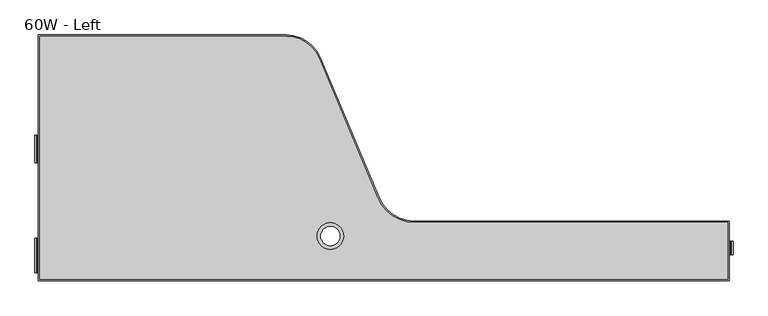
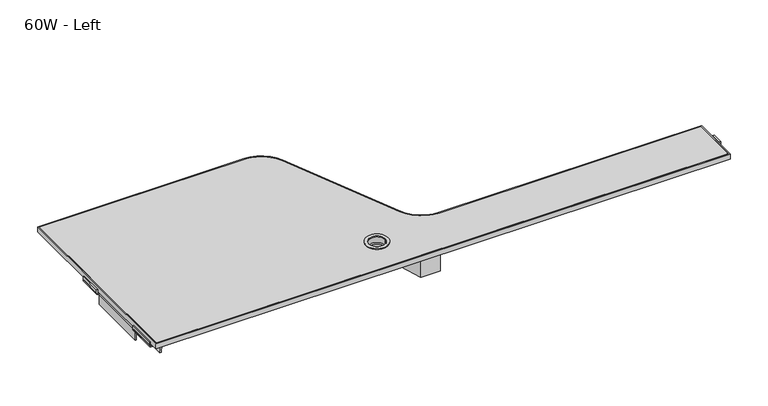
"""IFC4 building model written with IfcOpenShell, lengths in millimetres: furniture geometry, Steelcase Turnstone - Bivi - Table - Dual Top - Upper : 60W - Left."""

from ifc_helpers import new_model, si_unit, point, frame, frame_2d, origin, place, context, project, spatial, polyline, circle_curve, trimmed, segment, composite_curve, outline, extrude, faceted_brep, source, transform, mapped, element, save
from ifc_brep_helpers import plane_surface, cylinder_surface, revolved_surface, advanced_brep


def furniture_60w_left_80dfc609(model_context):
    return source(origin(), model_context, "Body", "SolidModel", [
        faceted_brep([(890.710046, -798.3804985, 1041.4865257), (839.910046, -798.3804985, 1041.4865257), (839.910046, -798.3804985, 984.3365257), (890.710046, -798.3804985, 984.3365257), (679.4202293, -353.2724638, 1039.9118156), (679.4202293, -353.2724638, 1041.4865257), (702.2312326, -353.2724638, 1041.4865257), (702.2312326, -353.2724638, 1007.3133509), (679.4202293, -353.2724638, 1007.3133509), (679.4202293, -353.2724638, 1008.3955413), (700.0875061, -353.2724638, 1008.3955413), (700.0875061, -353.2724638, 1039.9118156)], [[[0, 1, 2, 3]], [[4, 5, 6, 7, 8, 9, 10, 11]], [[11, 0, 4]], [[10, 0, 11]], [[9, 1, 0, 10]], [[8, 2, 1, 9]], [[7, 3, 2, 8]], [[6, 0, 3, 7]], [[5, 0, 6]], [[4, 0, 5]]]),
        faceted_brep([(176.3325988, -298.0312383, 1041.4865257), (176.3325988, -298.0312383, 1040.1793583), (176.3325988, -309.9526244, 1040.1793583), (176.3325988, -309.9526244, 1031.5145776), (176.3325988, -337.4886594, 1010.7646869), (176.3325988, -353.2724638, 1010.7646869), (176.3325988, -353.2724638, 1041.4865257), (702.7713731, -353.2724638, 1041.4865257), (678.7163849, -298.0312383, 1041.4865257), (702.7713731, -353.2724638, 1010.7646869), (695.8982594, -337.4886594, 1010.7646869), (683.9075949, -309.9526244, 1031.5145776), (683.9075949, -309.9526244, 1040.1793583), (678.7163849, -298.0312383, 1040.1793583)], [[[0, 1, 2, 3, 4, 5, 6]], [[6, 7, 8, 0]], [[5, 9, 7, 6]], [[4, 10, 9, 5]], [[3, 11, 10, 4]], [[2, 12, 11, 3]], [[1, 13, 12, 2]], [[0, 8, 13, 1]], [[7, 9, 10, 11, 12, 13, 8]]]),
        extrude(outline(composite_curve([segment(trimmed(circle_curve(frame_2d((1043.0122331, 1626.6961898)), 1.7676499), [point((1043.0122331, 1628.4638397))], [point((1041.2445831, 1626.6961898))], True, "CARTESIAN"), True, "CONTINUOUS"), segment(polyline([(1041.2445831, 1626.6961898), (1041.2445831, 1603.7962259), (1038.2067598, 1603.7962259), (1038.2067598, 1626.29999)]), True, "CONTINUOUS"), segment(trimmed(circle_curve(frame_2d((1043.4087962, 1626.29999)), 5.2020364), [point((1038.2067598, 1626.29999))], [point((1043.4087962, 1631.5020264))], False, "CARTESIAN"), True, "CONTINUOUS"), segment(polyline([(1043.4087962, 1631.5020264), (1052.5780574, 1631.5020264), (1052.5780574, 1628.4638397), (1043.0122331, 1628.4638397)]), True, "CONTINUOUS")], self_intersect=False)), frame((0.0, -759.6593832, 0.0), z_axis=(0.0, 1.0, 0.0), x_axis=(0.0, 0.0, 1.0)), (0.0, 0.0, 1.0), 28.5750242),
        extrude(outline(composite_curve([segment(polyline([(153.4, -294.1411651), (678.7163849, -294.1411651)]), True, "CONTINUOUS"), segment(trimmed(circle_curve(frame_2d((678.7163849, -370.3411651)), 76.2), [point((678.7163849, -294.1411651))], [point((748.9750264, -340.8426346))], False, "CARTESIAN"), True, "CONTINUOUS"), segment(polyline([(748.9750264, -340.8426346), (874.2002094, -639.0999071)]), True, "CONTINUOUS"), segment(trimmed(circle_curve(frame_2d((952.3033924, -606.3077967)), 84.7079081), [point((874.2002094, -639.0999071))], [point((952.3033924, -691.0157049))], True, "CARTESIAN"), True, "CONTINUOUS"), segment(polyline([(952.3033924, -691.0157049), (1620.25, -691.0157049), (1620.25, -812.4281826), (153.4, -812.4281826), (153.4, -294.1411651)]), True, "CONTINUOUS")], self_intersect=False), holes=[composite_curve([segment(trimmed(circle_curve(frame_2d((773.0295779, -720.0618051)), 20.4182782), [point((752.6112996, -720.0618051))], [point((793.4478561, -720.0618051))], True, "CARTESIAN"), True, "CONTINUOUS"), segment(trimmed(circle_curve(frame_2d((773.0295779, -720.0618051)), 20.4182782), [point((793.4478561, -720.0618051))], [point((752.6112996, -720.0618051))], True, "CARTESIAN"), True, "CONTINUOUS")], self_intersect=False)]), frame((0.0, 0.0, 1041.4865257), z_axis=(0.0, 0.0, 1.0), x_axis=(1.0, 0.0, 0.0)), (0.0, 0.0, 1.0), 13.9699806),
        advanced_brep(
        [(150.6059845, -291.3471738, 1055.4565063), (150.6059845, -815.2221738, 1055.4565063), (1623.8059845, -815.2221738, 1055.4565063), (1623.8059845, -688.2217075, 1055.4565063), (952.3033924, -688.2217075, 1055.4565063), (876.7763596, -638.0182943, 1055.4565063), (751.5511765, -339.7610219, 1055.4565063), (678.6792673, -291.3471738, 1055.4565063), (952.3033924, -691.0157049, 1055.4565063), (1620.25, -691.0157049, 1055.4565063), (1620.25, -812.4281826, 1055.4565063), (153.4, -812.4281826, 1055.4565063), (153.4, -294.1411651, 1055.4565063), (678.7163849, -294.1411651, 1055.4565063), (748.9750264, -340.8426346, 1055.4565063), (874.2002094, -639.0999071, 1055.4565063), (150.6059845, -291.3471738, 1041.4865257), (678.6792673, -291.3471738, 1041.4865257), (751.5511765, -339.7610219, 1041.4865257), (876.7763596, -638.0182943, 1041.4865257), (952.3033924, -688.2217049, 1041.4865257), (1623.8059845, -688.2217075, 1041.4865257), (1623.8059845, -815.2221738, 1041.4865257), (150.6059845, -815.2221738, 1041.4865257), (952.3033924, -691.0157049, 1041.4865257), (874.2002094, -639.0999071, 1041.4865257), (748.9750264, -340.8426346, 1041.4865257), (678.7163849, -294.1411651, 1041.4865257), (153.4, -294.1411651, 1041.4865257), (153.4, -812.4281826, 1041.4865257), (1620.25, -812.4281826, 1041.4865257), (1620.25, -691.0157049, 1041.4865257)],
        [
            (0, 1),
            (1, 2),
            (2, 3),
            (3, 4),
            (4, 5, circle_curve(frame((952.3033924, -606.3077967, 1055.4565063), z_axis=(0.0, 0.0, -1.0), x_axis=(-0.4063186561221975, -0.913731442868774, 0.0)), 81.9139081)),
            (5, 6),
            (6, 7, circle_curve(frame((678.7163849, -370.3411651, 1055.4565063), z_axis=(0.0, 0.0, 1.0), x_axis=(-0.4063186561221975, -0.913731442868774, 0.0)), 78.994)),
            (7, 0),
            (8, 9),
            (9, 10),
            (10, 11),
            (11, 12),
            (12, 13),
            (13, 14, circle_curve(frame((678.7163849, -370.3411651, 1055.4565063), z_axis=(0.0, 0.0, -1.0), x_axis=(-0.4063186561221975, -0.913731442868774, 0.0)), 76.2)),
            (14, 15),
            (15, 8, circle_curve(frame((952.3033924, -606.3077967, 1055.4565063), z_axis=(0.0, 0.0, 1.0), x_axis=(-0.4063186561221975, -0.913731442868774, 0.0)), 84.7079081)),
            (16, 17),
            (17, 18, circle_curve(frame((678.7163849, -370.3411651, 1041.4865257), z_axis=(0.0, 0.0, -1.0), x_axis=(-0.4063186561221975, -0.913731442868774, 0.0)), 78.994)),
            (18, 19),
            (19, 20, circle_curve(frame((952.3033924, -606.3077967, 1041.4865257), z_axis=(0.0, 0.0, 1.0), x_axis=(-0.4063186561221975, -0.913731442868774, 0.0)), 81.9139081)),
            (20, 21),
            (21, 22),
            (22, 23),
            (23, 16),
            (24, 25, circle_curve(frame((952.3033924, -606.3077967, 1041.4865257), z_axis=(0.0, 0.0, -1.0), x_axis=(-0.4063186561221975, -0.913731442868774, 0.0)), 84.7079081)),
            (25, 26),
            (26, 27, circle_curve(frame((678.7163849, -370.3411651, 1041.4865257), z_axis=(0.0, 0.0, 1.0), x_axis=(-0.4063186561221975, -0.913731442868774, 0.0)), 76.2)),
            (27, 28),
            (28, 29),
            (29, 30),
            (30, 31),
            (31, 24),
            (15, 25),
            (24, 8),
            (14, 26),
            (13, 27),
            (12, 28),
            (11, 29),
            (10, 30),
            (9, 31),
            (7, 17),
            (16, 0),
            (6, 18),
            (5, 19),
            (4, 20),
            (3, 21),
            (2, 22),
            (1, 23),
        ],
        [
            plane_surface(frame((917.884989, -683.7080759, 1055.4565063), z_axis=(0.0, 0.0, 1.0000000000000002), x_axis=(-0.913731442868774, 0.40631865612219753, 0.0))),
            plane_surface(frame((917.884989, -683.7080759, 1041.4865257), z_axis=(0.0, 0.0, -1.0000000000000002), x_axis=(0.913731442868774, -0.40631865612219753, 0.0))),
            cylinder_surface(frame((952.3033924, -606.3077967, 1041.4865257), z_axis=(0.0, 0.0, 1.0), x_axis=(-0.4063186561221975, -0.913731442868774, 0.0)), 84.7079081),
            plane_surface(frame((874.2002094, -639.0999071, 1055.4565063), z_axis=(-0.9220294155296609, -0.3871198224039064, 0.0), x_axis=(0.0, 0.0, -1.0))),
            revolved_surface(polyline([(647.7549033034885, -439.9675010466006, 1041.4865257), (647.7549033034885, -439.9675010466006, 1055.4565063)]), (678.7163849, -370.3411651, 1041.4865257), (0.0, 0.0, -1.0)),
            plane_surface(frame((678.7163849, -294.1411651, 1055.4565063), z_axis=(0.0, -1.0, 0.0), x_axis=(0.0, 0.0, -1.0))),
            plane_surface(frame((153.4, -294.1411651, 1055.4565063), z_axis=(1.0, 0.0, 0.0), x_axis=(0.0, 0.0, -1.0))),
            plane_surface(frame((153.4, -812.4281826, 1055.4565063), z_axis=(0.0, 1.0, 0.0), x_axis=(0.0, 0.0, -1.0))),
            plane_surface(frame((1620.25, -812.4281826, 1055.4565063), z_axis=(-1.0, 0.0, 0.0), x_axis=(0.0, 0.0, -1.0))),
            plane_surface(frame((1620.25, -691.0157049, 1055.4565063), z_axis=(0.0, -1.0, 0.0), x_axis=(0.0, 0.0, -1.0))),
            plane_surface(frame((150.6059845, -291.3471738, 1055.4565063), z_axis=(0.0, 1.0, 0.0), x_axis=(0.0, 0.0, -1.0))),
            cylinder_surface(frame((678.7163849, -370.3411651, 0.0), z_axis=(0.0, 0.0, 1.0), x_axis=(-0.4063186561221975, -0.913731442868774, 0.0)), 78.994),
            plane_surface(frame((751.5511765, -339.7610219, 1055.4565063), z_axis=(0.9220294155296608, 0.38711982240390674, 0.0), x_axis=(0.0, 0.0, -1.0))),
            revolved_surface(polyline([(919.0202433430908, -681.1551101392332, 1041.4865257), (919.0202433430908, -681.1551101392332, 1055.4565063)]), (952.3033924, -606.3077967, 0.0), (0.0, 0.0, -1.0)),
            plane_surface(frame((952.3033924, -688.2217075, 1055.4565063), z_axis=(0.0, 1.0, 0.0), x_axis=(0.0, 0.0, -1.0))),
            plane_surface(frame((1623.8059845, -688.2217075, 1055.4565063), z_axis=(1.0, 0.0, 0.0), x_axis=(0.0, 0.0, -1.0))),
            plane_surface(frame((1623.8059845, -815.2221738, 1055.4565063), z_axis=(0.0, -1.0, 0.0), x_axis=(0.0, 0.0, -1.0))),
            plane_surface(frame((150.6059845, -815.2221738, 1055.4565063), z_axis=(-1.0, 0.0, 0.0), x_axis=(0.0, 0.0, -1.0))),
        ],
        [
            (0, [[1, 2, 3, 4, 5, 6, 7, 8], [9, 10, 11, 12, 13, 14, 15, 16]]),
            (1, [[17, 18, 19, 20, 21, 22, 23, 24], [25, 26, 27, 28, 29, 30, 31, 32]]),
            (2, [[33, -25, 34, -16]]),
            (3, [[35, -26, -33, -15]]),
            (4, [[36, -27, -35, -14]]),
            (5, [[37, -28, -36, -13]]),
            (6, [[38, -29, -37, -12]]),
            (7, [[39, -30, -38, -11]]),
            (8, [[40, -31, -39, -10]]),
            (9, [[-34, -32, -40, -9]]),
            (10, [[41, -17, 42, -8]]),
            (11, [[43, -18, -41, -7]]),
            (12, [[44, -19, -43, -6]]),
            (13, [[45, -20, -44, -5]]),
            (14, [[46, -21, -45, -4]]),
            (15, [[47, -22, -46, -3]]),
            (16, [[48, -23, -47, -2]]),
            (17, [[-42, -24, -48, -1]]),
        ],
    ),
        advanced_brep(
        [(173.2955749, -724.9765806, 1033.5003172), (173.2955749, -724.9765806, 1036.2789253), (171.3677403, -724.9765806, 1038.2067598), (148.5250221, -724.9765806, 1038.2067598), (143.3229857, -724.9765806, 1043.4087962), (143.3229857, -724.9765806, 1052.5780574), (146.3611724, -724.9765806, 1052.5780574), (146.3611724, -724.9765806, 1043.0122331), (148.1288223, -724.9765806, 1041.2445831), (171.0287862, -724.9765806, 1041.2445831), (176.3325988, -724.9765806, 1035.9407705), (176.3325988, -724.9765806, 1033.5003172), (176.3325988, -564.321009, 1033.5003172), (173.2955749, -564.321009, 1033.5003172), (176.3325988, -564.321009, 1035.9407705), (171.0287862, -564.321009, 1041.2445831), (148.1288223, -564.321009, 1041.2445831), (146.3611724, -564.321009, 1043.0122331), (146.3611724, -564.321009, 1052.5780574), (143.3229857, -564.321009, 1052.5780574), (143.3229857, -564.321009, 1043.4087962), (148.5250221, -564.321009, 1038.2067598), (171.3677403, -564.321009, 1038.2067598), (173.2955749, -564.321009, 1036.2789253), (173.2955749, -505.2663324, 1033.5003172), (173.2955749, -505.2663324, 1036.2789253), (171.3677403, -505.2663324, 1038.2067598), (148.5250221, -505.2663324, 1038.2067598), (143.3229857, -505.2663324, 1043.4087962), (143.3229857, -505.2663324, 1052.5780574), (146.3611724, -505.2663324, 1052.5780574), (146.3611724, -505.2663324, 1043.0122331), (148.1288223, -505.2663324, 1041.2445831), (171.0287862, -505.2663324, 1041.2445831), (176.3325988, -505.2663324, 1035.9407705), (176.3325988, -505.2663324, 1033.5003172), (176.3325988, -348.2448747, 1033.5003172), (173.2955749, -348.2448747, 1033.5003172), (176.3325988, -798.5617693, 1033.5003172), (176.3325988, -798.5617693, 1035.9407705), (171.0287862, -798.5617693, 1041.2445831), (148.1288223, -798.5617693, 1041.2445831), (146.3611724, -798.5617693, 1043.0122331), (146.3611724, -798.5617693, 1052.5780574), (143.3229857, -798.5617693, 1052.5780574), (143.3229857, -798.5617693, 1043.4087962), (148.5250221, -798.5617693, 1038.2067598), (171.3677403, -798.5617693, 1038.2067598), (173.2955749, -798.5617693, 1036.2789253), (173.2955749, -798.5617693, 1033.5003172), (173.2955749, -794.9607992, 1010.7646869), (176.3325988, -794.9607992, 1010.7646869), (176.3325988, -348.2448747, 1010.7646869), (173.2955749, -348.2448747, 1010.7646869)],
        [
            (0, 1),
            (1, 2, circle_curve(frame((171.3677403, -724.9765806, 1036.2789253), z_axis=(0.0, -1.0, 0.0), x_axis=(-1.0, 0.0, 0.0)), 1.9278345)),
            (2, 3),
            (3, 4, circle_curve(frame((148.5250221, -724.9765806, 1043.4087962), z_axis=(0.0, 1.0, 0.0), x_axis=(-1.0, 0.0, 0.0)), 5.2020364)),
            (4, 5),
            (5, 6),
            (6, 7),
            (7, 8, circle_curve(frame((148.1288223, -724.9765806, 1043.0122331), z_axis=(0.0, -1.0, 0.0), x_axis=(-1.0, 0.0, 0.0)), 1.7676499)),
            (8, 9),
            (9, 10, circle_curve(frame((171.0287862, -724.9765806, 1035.9407705), z_axis=(0.0, 1.0, 0.0), x_axis=(-1.0, 0.0, 0.0)), 5.3038126)),
            (10, 11),
            (11, 0),
            (11, 12),
            (12, 13),
            (13, 0),
            (12, 14),
            (14, 15, circle_curve(frame((171.0287862, -564.321009, 1035.9407705), z_axis=(0.0, -1.0, 0.0), x_axis=(-1.0, 0.0, 0.0)), 5.3038126)),
            (15, 16),
            (16, 17, circle_curve(frame((148.1288223, -564.321009, 1043.0122331), z_axis=(0.0, 1.0, 0.0), x_axis=(-1.0, 0.0, 0.0)), 1.7676499)),
            (17, 18),
            (18, 19),
            (19, 20),
            (20, 21, circle_curve(frame((148.5250221, -564.321009, 1043.4087962), z_axis=(0.0, -1.0, 0.0), x_axis=(-1.0, 0.0, 0.0)), 5.2020364)),
            (21, 22),
            (22, 23, circle_curve(frame((171.3677403, -564.321009, 1036.2789253), z_axis=(0.0, 1.0, 0.0), x_axis=(-1.0, 0.0, 0.0)), 1.9278345)),
            (23, 13),
            (24, 25),
            (25, 26, circle_curve(frame((171.3677403, -505.2663324, 1036.2789253), z_axis=(0.0, -1.0, 0.0), x_axis=(-1.0, 0.0, 0.0)), 1.9278345)),
            (26, 27),
            (27, 28, circle_curve(frame((148.5250221, -505.2663324, 1043.4087962), z_axis=(0.0, 1.0, 0.0), x_axis=(-1.0, 0.0, 0.0)), 5.2020364)),
            (28, 29),
            (29, 30),
            (30, 31),
            (31, 32, circle_curve(frame((148.1288223, -505.2663324, 1043.0122331), z_axis=(0.0, -1.0, 0.0), x_axis=(-1.0, 0.0, 0.0)), 1.7676499)),
            (32, 33),
            (33, 34, circle_curve(frame((171.0287862, -505.2663324, 1035.9407705), z_axis=(0.0, 1.0, 0.0), x_axis=(-1.0, 0.0, 0.0)), 5.3038126)),
            (34, 35),
            (35, 24),
            (35, 36),
            (36, 37),
            (37, 24),
            (38, 39),
            (39, 40, circle_curve(frame((171.0287862, -798.5617693, 1035.9407705), z_axis=(0.0, -1.0, 0.0), x_axis=(-1.0, 0.0, 0.0)), 5.3038126)),
            (40, 41),
            (41, 42, circle_curve(frame((148.1288223, -798.5617693, 1043.0122331), z_axis=(0.0, 1.0, 0.0), x_axis=(-1.0, 0.0, 0.0)), 1.7676499)),
            (42, 43),
            (43, 44),
            (44, 45),
            (45, 46, circle_curve(frame((148.5250221, -798.5617693, 1043.4087962), z_axis=(0.0, -1.0, 0.0), x_axis=(-1.0, 0.0, 0.0)), 5.2020364)),
            (46, 47),
            (47, 48, circle_curve(frame((171.3677403, -798.5617693, 1036.2789253), z_axis=(0.0, 1.0, 0.0), x_axis=(-1.0, 0.0, 0.0)), 1.9278345)),
            (48, 49),
            (49, 38),
            (49, 50),
            (50, 51),
            (51, 38),
            (7, 42),
            (41, 8),
            (31, 17),
            (16, 32),
            (15, 33),
            (40, 9),
            (14, 34),
            (39, 10),
            (51, 52),
            (52, 36),
            (53, 50),
            (48, 1),
            (23, 25),
            (37, 53),
            (22, 26),
            (47, 2),
            (21, 27),
            (46, 3),
            (20, 28),
            (45, 4),
            (19, 29),
            (44, 5),
            (18, 30),
            (43, 6),
            (53, 52),
        ],
        [
            plane_surface(frame((-124.7902, -724.9765806, 1074.5657681), z_axis=(0.0, 1.0, 0.0), x_axis=(1.0, 0.0, 0.0))),
            plane_surface(frame((-124.7902, -724.9765806, 1033.5003172), z_axis=(0.0, 0.0, 1.0), x_axis=(1.0, 0.0, 0.0))),
            plane_surface(frame((-124.7902, -564.321009, 1033.5003172), z_axis=(0.0, -1.0, 0.0), x_axis=(1.0, 0.0, 0.0))),
            plane_surface(frame((-124.7902, -505.2663324, 1074.5657681), z_axis=(0.0, 1.0, 0.0), x_axis=(1.0, 0.0, 0.0))),
            plane_surface(frame((-124.7902, -505.2663324, 1033.5003172), z_axis=(0.0, 0.0, 1.0), x_axis=(1.0, 0.0, 0.0))),
            plane_surface(frame((-124.7902, -798.5617693, 1033.5003172), z_axis=(0.0, -1.0, 0.0), x_axis=(1.0, 0.0, 0.0))),
            plane_surface(frame((-124.7902, -791.6082574, 989.5975705), z_axis=(0.0, -0.9876883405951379, -0.1564344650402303), x_axis=(1.0, 0.0, 0.0))),
            revolved_surface(polyline([(146.3611724, -798.5617693, 1043.0122331), (146.3611724, -724.9765806, 1043.0122331)]), (148.1288223, -815.2221738, 1043.0122331), (0.0, -1.0, 0.0)),
            revolved_surface(polyline([(146.3611724, -564.321009, 1043.0122331), (146.3611724, -505.2663324, 1043.0122331)]), (148.1288223, -815.2221738, 1043.0122331), (0.0, -1.0, 0.0)),
            plane_surface(frame((171.0287862, -348.2448747, 1041.2445831), z_axis=(0.0, 0.0, 1.0), x_axis=(0.0, -1.0, 0.0))),
            cylinder_surface(frame((171.0287862, -815.2221738, 1035.9407705), z_axis=(0.0, 1.0, 0.0), x_axis=(-1.0, 0.0, 0.0)), 5.3038126),
            plane_surface(frame((176.3325988, -348.2448747, 1010.7646869), z_axis=(1.0, 0.0, 0.0), x_axis=(0.0, -1.0, 0.0))),
            plane_surface(frame((173.2955749, -348.2448747, 1036.2789253), z_axis=(-1.0, 0.0, 0.0), x_axis=(0.0, -1.0, 0.0))),
            revolved_surface(polyline([(169.43990580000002, -564.321009, 1036.2789253), (169.43990580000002, -505.2663324, 1036.2789253)]), (171.3677403, -815.2221738, 1036.2789253), (0.0, -1.0, 0.0)),
            revolved_surface(polyline([(169.43990580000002, -798.5617693, 1036.2789253), (169.43990580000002, -724.9765806, 1036.2789253)]), (171.3677403, -815.2221738, 1036.2789253), (0.0, -1.0, 0.0)),
            plane_surface(frame((148.5250221, -348.2448747, 1038.2067598), z_axis=(0.0, 0.0, -1.0), x_axis=(0.0, -1.0, 0.0))),
            cylinder_surface(frame((148.5250221, -815.2221738, 1043.4087962), z_axis=(0.0, 1.0, 0.0), x_axis=(-1.0, 0.0, 0.0)), 5.2020364),
            plane_surface(frame((143.3229857, -348.2448747, 1052.5780574), z_axis=(-1.0, 0.0, 0.0), x_axis=(0.0, -1.0, 0.0))),
            plane_surface(frame((146.3611724, -348.2448747, 1052.5780574), z_axis=(0.0, 0.0, 1.0), x_axis=(0.0, -1.0, 0.0))),
            plane_surface(frame((146.3611724, -348.2448747, 1043.0122331), z_axis=(1.0, 0.0, 0.0), x_axis=(0.0, -1.0, 0.0))),
            plane_surface(frame((173.2955749, -348.2448747, 1010.7646869), z_axis=(0.0, 0.0, -1.0), x_axis=(0.0, -1.0, 0.0))),
            plane_surface(frame((146.3611724, -348.2448747, 1052.5780574), z_axis=(0.0, 1.0, 0.0), x_axis=(0.0, 0.0, 1.0))),
        ],
        [
            (0, [[1, 2, 3, 4, 5, 6, 7, 8, 9, 10, 11, 12]]),
            (1, [[13, 14, 15, -12]]),
            (2, [[16, 17, 18, 19, 20, 21, 22, 23, 24, 25, 26, -14]]),
            (3, [[27, 28, 29, 30, 31, 32, 33, 34, 35, 36, 37, 38]]),
            (4, [[39, 40, 41, -38]]),
            (5, [[42, 43, 44, 45, 46, 47, 48, 49, 50, 51, 52, 53]]),
            (6, [[54, 55, 56, -53]]),
            (7, [[-8, 57, -45, 58]]),
            (8, [[-34, 59, -19, 60]]),
            (9, [[-18, 61, -35, -60]]),
            (9, [[-44, 62, -9, -58]]),
            (10, [[-17, 63, -36, -61]]),
            (10, [[-43, 64, -10, -62]]),
            (11, [[-39, -37, -63, -16, -13, -11, -64, -42, -56, 65, 66]]),
            (12, [[67, -54, -52, 68, -1, -15, -26, 69, -27, -41, 70]]),
            (13, [[-25, 71, -28, -69]]),
            (14, [[-51, 72, -2, -68]]),
            (15, [[-24, 73, -29, -71]]),
            (15, [[-50, 74, -3, -72]]),
            (16, [[-23, 75, -30, -73]]),
            (16, [[-49, 76, -4, -74]]),
            (17, [[-22, 77, -31, -75]]),
            (17, [[-48, 78, -5, -76]]),
            (18, [[-21, 79, -32, -77]]),
            (18, [[-47, 80, -6, -78]]),
            (19, [[-20, -59, -33, -79]]),
            (19, [[-46, -57, -7, -80]]),
            (20, [[-65, -55, -67, 81]]),
            (21, [[-70, -40, -66, -81]]),
        ],
    ),
        extrude(outline(composite_curve([segment(polyline([(1010.7646869, 153.4), (1036.4895002, 153.4)]), True, "CONTINUOUS"), segment(trimmed(circle_curve(frame_2d((1036.4895002, 155.1172597)), 1.7172597), [point((1036.4895002, 153.4))], [point((1038.2067598, 155.1172597))], True, "CARTESIAN"), True, "CONTINUOUS"), segment(polyline([(1038.2067598, 155.1172597), (1038.2067598, 171.3677403)]), True, "CONTINUOUS"), segment(trimmed(circle_curve(frame_2d((1036.2789253, 171.3677403)), 1.9278345), [point((1038.2067598, 171.3677403))], [point((1036.325297, 173.2950171))], True, "CARTESIAN"), True, "CONTINUOUS"), segment(polyline([(1036.325297, 173.2950171), (1036.325297, 176.3186413)]), True, "CONTINUOUS"), segment(trimmed(circle_curve(frame_2d((1035.9407705, 171.0287862)), 5.3038126), [point((1036.325297, 176.3186413))], [point((1041.2445831, 171.0287862))], False, "CARTESIAN"), True, "CONTINUOUS"), segment(polyline([(1041.2445831, 171.0287862), (1041.2445831, 155.5630502)]), True, "CONTINUOUS"), segment(trimmed(circle_curve(frame_2d((1036.2875174, 155.5630502)), 4.9570657), [point((1041.2445831, 155.5630502))], [point((1036.2875174, 150.6059845))], False, "CARTESIAN"), True, "CONTINUOUS"), segment(polyline([(1036.2875174, 150.6059845), (1010.7646869, 150.6059845), (1010.7646869, 153.4)]), True, "CONTINUOUS")], self_intersect=False)), frame((0.0, -724.9765806, 0.0), z_axis=(0.0, 1.0, 0.0), x_axis=(0.0, 0.0, 1.0)), (0.0, 0.0, 1.0), 160.6554483),
        extrude(outline(composite_curve([segment(trimmed(circle_curve(frame_2d((773.0295779, -720.0618051)), 28.3365682), [point((744.6930097, -720.0618051))], [point((801.3661461, -720.0618051))], False, "CARTESIAN"), True, "CONTINUOUS"), segment(trimmed(circle_curve(frame_2d((773.0295779, -720.0618051)), 28.3365682), [point((801.3661461, -720.0618051))], [point((744.6930097, -720.0618051))], False, "CARTESIAN"), True, "CONTINUOUS")], self_intersect=False), holes=[composite_curve([segment(trimmed(circle_curve(frame_2d((773.0295779, -720.0618051)), 20.4182782), [point((752.6112996, -720.0618051))], [point((793.4478561, -720.0618051))], True, "CARTESIAN"), True, "CONTINUOUS"), segment(trimmed(circle_curve(frame_2d((773.0295779, -720.0618051)), 20.4182782), [point((793.4478561, -720.0618051))], [point((752.6112996, -720.0618051))], True, "CARTESIAN"), True, "CONTINUOUS")], self_intersect=False)]), frame((0.0, 0.0, 1036.8869459), z_axis=(0.0, 0.0, 1.0), x_axis=(1.0, 0.0, 0.0)), (0.0, 0.0, 1.0), 21.3373179),
    ])


if __name__ == "__main__":
    model = new_model("IFC4")
    model_context = context("Model", 3, world=origin())
    ifc_project = project(units=[si_unit("LENGTHUNIT", "METRE", prefix="MILLI")], contexts=[model_context])
    site = spatial("IfcSite", under=ifc_project)
    building = spatial("IfcBuilding", under=site)
    placement = place(None, origin())
    furniture_60w_left_shape = furniture_60w_left_80dfc609(model_context)
    element("IfcFurniture", 1, ObjectType="Steelcase Turnstone - Bivi - Table - Dual Top - Upper : 60W - Left", at=placement, inside=building, context=model_context, shape_type="MappedRepresentation", body=[
        mapped(furniture_60w_left_shape, transform((0.0, 0.0, 0.0), x_axis=(1.0, 0.0, 0.0), y_axis=(0.0, 1.0, 0.0), z_axis=(0.0, 0.0, 1.0))),
    ])
    save(model, "model.ifc")
